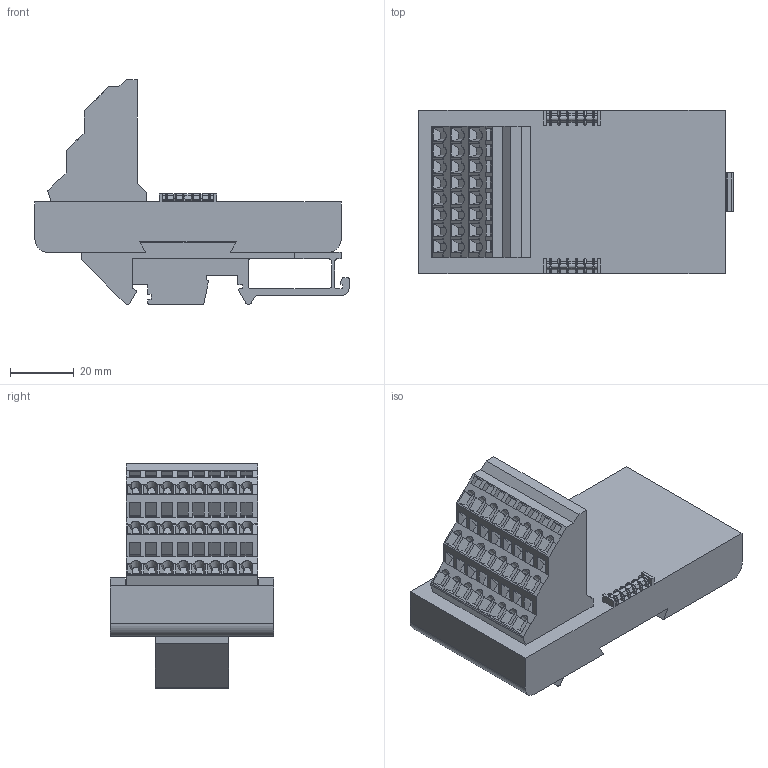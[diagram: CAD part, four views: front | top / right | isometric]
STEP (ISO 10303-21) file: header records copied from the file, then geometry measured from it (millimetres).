
FILE_DESCRIPTION(/* description */ ('Katalogmodell Elobau'),/* implementation_level */ '2;1');
FILE_NAME(/* name */ 'Katalogdaten.stp',/* time_stamp */ '2015-04-28T08:51:25+02:00',/* author */ ('Elobau GmbH & Co. KG'),/* organization */ ('Elobau GmbH & Co. KG'),/* preprocessor_version */ 'ST-DEVELOPER v15',/* originating_system */ 'SIEMENS PLM Software NX 8.5',/* authorisation */ '');
FILE_SCHEMA (('AUTOMOTIVE_DESIGN { 1 0 10303 214 3 1 1 1 }'));
Length unit declared in the file: millimetre
Products named in the file (1): 363.97_A
Bounding box: 98.5 x 51.2 x 70.45 mm (x, y, z)
Volume: 115742.4 mm3; surface area: 25520.6 mm2
Topology: 1 solids, 1 shells, 885 faces, 2456 edges, 1570 vertices
Faces by surface type: plane 633, cylinder 132, cone 72, bspline 48
Entity records: 28337 total; most frequent: CARTESIAN_POINT 6582, ORIENTED_EDGE 4912, DIRECTION 4100, EDGE_CURVE 2456, LINE 1804, VECTOR 1804, VERTEX_POINT 1570, AXIS2_PLACEMENT_3D 1148
